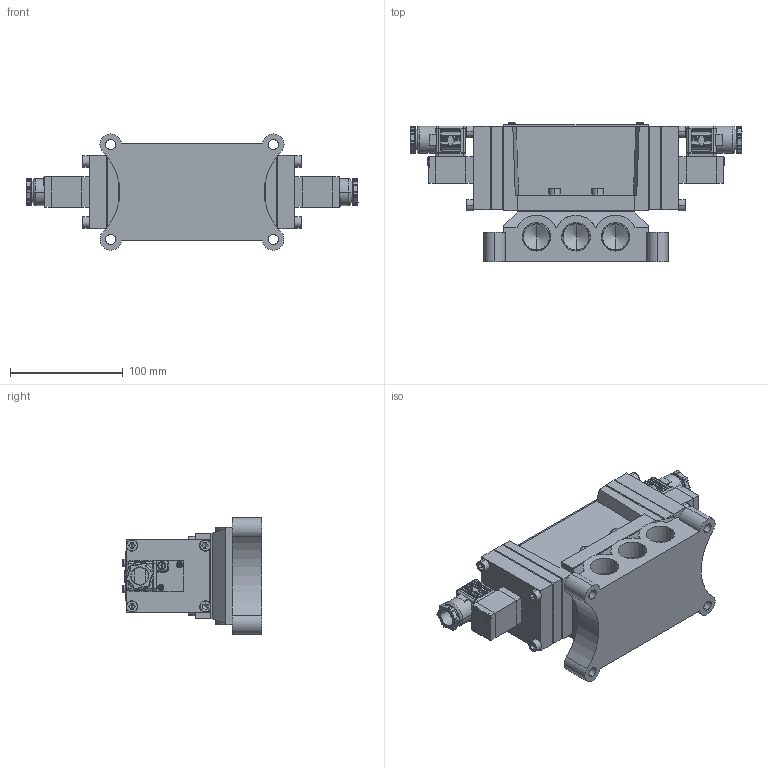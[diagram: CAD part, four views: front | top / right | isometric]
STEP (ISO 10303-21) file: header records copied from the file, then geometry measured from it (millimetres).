
FILE_DESCRIPTION (( 'STEP AP203' ), '1' );
FILE_NAME ('PMD(E)3415#-06-#C#.STEP', '2016-03-09T05:56:19', ( 'Sam Lin' ), ( '' ), 'SwSTEP 2.0', 'SolidWorks 2013', '' );
FILE_SCHEMA (( 'CONFIG_CONTROL_DESIGN' ));
Length unit declared in the file: metre
Products named in the file (17): PM06-C5; PMS2415-4; PMS2306-6(C); PM15-MARK-24; PMS2415-7; PMS2415-5; PMS2415-6-06; PM06-C3-M4; PMD3415-1; ISO 4762 M6 x 12; PMD(E)3415#-06-#C#; PM06-C1; PMS2415-1; PM06-C4; PMS2415-2; PM06-C6-M3; PMS2415-3
Assembly tree (43 placements, depth 2):
  PMD(E)3415#-06-#C#
    PMS2415-1
    PMS2415-2
    PMS2415-3  x4
    PMS2415-4  x2
    PM15-MARK-24
    PMS2415-5
    PM06-C3-M4  x4
    ISO 4762 M6 x 12  x12
    PM06-C1  x2
    PM06-C4  x2
    PM06-C6-M3  x4
    PM06-C5  x2
    PMS2306-6(C)  x2
    PMS2415-7  x2
    PMS2415-6-06
    PMD3415-1  x2
Bounding box: 294 x 123.55 x 102.97 mm (x, y, z)
Volume: 1313651.9 mm3; surface area: 271403.3 mm2
Topology: 49 solids, 49 shells, 1625 faces, 4030 edges, 2311 vertices
Faces by surface type: plane 656, cylinder 439, bspline 392, cone 138
Entity records: 30255 total; most frequent: CARTESIAN_POINT 11919, ORIENTED_EDGE 3360, DIRECTION 3140, EDGE_CURVE 1680, AXIS2_PLACEMENT_3D 1147, VERTEX_POINT 1062, VECTOR 846, LINE 846
